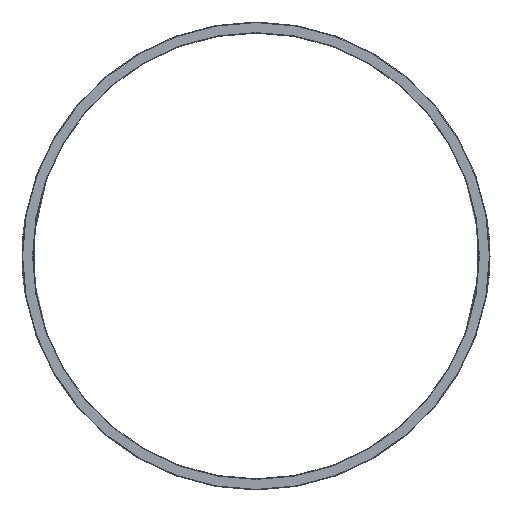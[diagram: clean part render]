
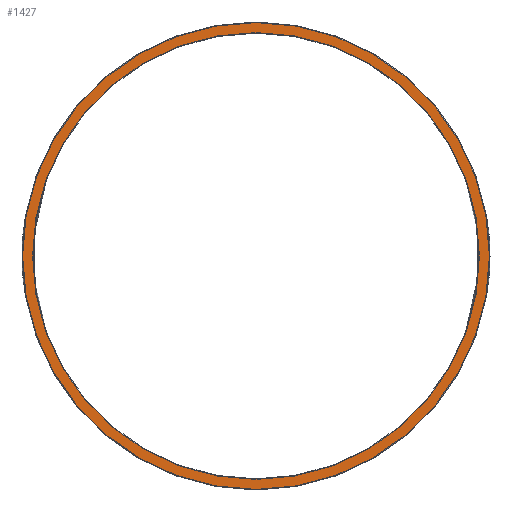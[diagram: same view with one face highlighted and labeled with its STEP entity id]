
A CAD part, left-side view. The second image highlights one B-rep face of the part: STEP entity #1427.
In plain terms, the highlighted planar face has unit normal (-1, 0, 0).
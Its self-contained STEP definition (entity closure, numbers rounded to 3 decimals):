
#1396=CARTESIAN_POINT('',(-36.25,38.1,0.));
#1397=VERTEX_POINT('',#1396);
#1398=CARTESIAN_POINT('',(-36.25,0.0,0.0));
#1399=DIRECTION('',(-1.0,0.0,0.0));
#1400=DIRECTION('',(0.0,-1.0,0.0));
#1401=AXIS2_PLACEMENT_3D('',#1398,#1399,#1400);
#1402=CIRCLE('',#1401,38.1);
#1403=EDGE_CURVE('',#1397,#1397,#1402,.T.);
#1408=CARTESIAN_POINT('',(-36.25,38.95,0.0));
#1409=DIRECTION('',(-1.0,0.0,0.0));
#1410=DIRECTION('',(0.0,0.0,1.0));
#1411=AXIS2_PLACEMENT_3D('',#1408,#1409,#1410);
#1412=PLANE('',#1411);
#1413=CARTESIAN_POINT('',(-36.25,39.8,0.));
#1414=VERTEX_POINT('',#1413);
#1415=CARTESIAN_POINT('',(-36.25,0.0,0.0));
#1416=DIRECTION('',(1.0,0.0,0.0));
#1417=DIRECTION('',(0.0,-1.0,0.0));
#1418=AXIS2_PLACEMENT_3D('',#1415,#1416,#1417);
#1419=CIRCLE('',#1418,39.8);
#1420=EDGE_CURVE('',#1414,#1414,#1419,.T.);
#1421=ORIENTED_EDGE('',*,*,#1420,.F.);
#1422=EDGE_LOOP('',(#1421));
#1423=FACE_OUTER_BOUND('',#1422,.T.);
#1424=ORIENTED_EDGE('',*,*,#1403,.F.);
#1425=EDGE_LOOP('',(#1424));
#1426=FACE_BOUND('',#1425,.T.);
#1427=ADVANCED_FACE('',(#1423,#1426),#1412,.T.);
